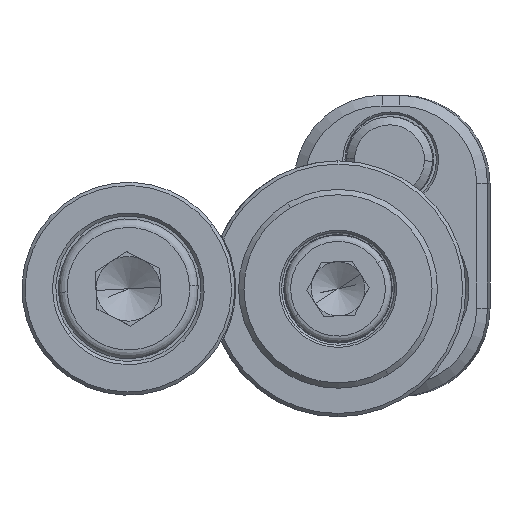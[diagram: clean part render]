
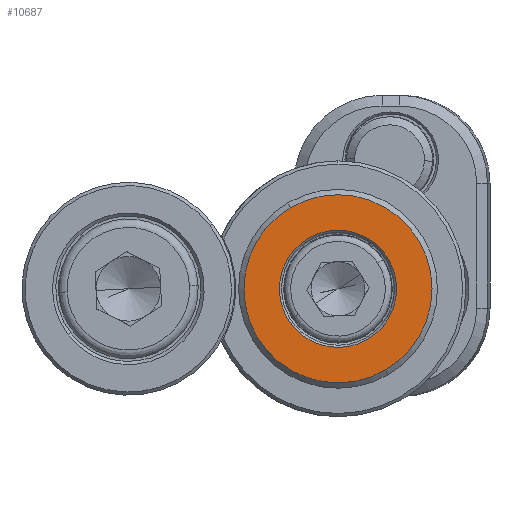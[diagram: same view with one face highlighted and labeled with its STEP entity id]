
A CAD part, front view. The second image highlights one B-rep face of the part: STEP entity #10687.
In plain terms, the highlighted planar face has unit normal (0, -1, 0).
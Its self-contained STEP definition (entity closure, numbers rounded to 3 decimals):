
#1014 = DIRECTION ( 'NONE',  ( 0., -1., 0. ) ) ;
#1101 = VERTEX_POINT ( 'NONE', #1203 ) ;
#1203 = CARTESIAN_POINT ( 'NONE',  ( 4.42, -4., -7.552 ) ) ;
#1492 = CIRCLE ( 'NONE', #1742, 5.45 ) ;
#1742 = AXIS2_PLACEMENT_3D ( 'NONE', #12019, #9812, #11785 ) ;
#2333 = EDGE_CURVE ( 'NONE', #2946, #5496, #1492, .T. ) ;
#2921 = EDGE_LOOP ( 'NONE', ( #8896, #9578 ) ) ;
#2946 = VERTEX_POINT ( 'NONE', #4589 ) ;
#3191 = DIRECTION ( 'NONE',  ( -0.505, 0., 0.863 ) ) ;
#3400 = DIRECTION ( 'NONE',  ( 0., -1., 0. ) ) ;
#3936 = FACE_BOUND ( 'NONE', #7759, .T. ) ;
#4589 = CARTESIAN_POINT ( 'NONE',  ( -2.753, -4., 4.704 ) ) ;
#5496 = VERTEX_POINT ( 'NONE', #8049 ) ;
#5726 = CARTESIAN_POINT ( 'NONE',  ( 0., -4., 0. ) ) ;
#6249 = CIRCLE ( 'NONE', #13011, 8.75 ) ;
#6579 = CARTESIAN_POINT ( 'NONE',  ( -4.42, -4., 7.552 ) ) ;
#6794 = ORIENTED_EDGE ( 'NONE', *, *, #10517, .T. ) ;
#7205 = AXIS2_PLACEMENT_3D ( 'NONE', #12151, #7545, #3191 ) ;
#7334 = AXIS2_PLACEMENT_3D ( 'NONE', #9217, #3400, #13670 ) ;
#7545 = DIRECTION ( 'NONE',  ( 0., 1., 0. ) ) ;
#7759 = EDGE_LOOP ( 'NONE', ( #6794, #8768 ) ) ;
#8049 = CARTESIAN_POINT ( 'NONE',  ( 2.753, -4., -4.704 ) ) ;
#8768 = ORIENTED_EDGE ( 'NONE', *, *, #2333, .T. ) ;
#8896 = ORIENTED_EDGE ( 'NONE', *, *, #14080, .T. ) ;
#9217 = CARTESIAN_POINT ( 'NONE',  ( 0., -4., 0. ) ) ;
#9578 = ORIENTED_EDGE ( 'NONE', *, *, #12111, .T. ) ;
#9812 = DIRECTION ( 'NONE',  ( 0., 1., 0. ) ) ;
#10457 = FACE_OUTER_BOUND ( 'NONE', #2921, .T. ) ;
#10517 = EDGE_CURVE ( 'NONE', #5496, #2946, #11618, .T. ) ;
#10593 = CARTESIAN_POINT ( 'NONE',  ( 0., -4., 0. ) ) ;
#10687 = ADVANCED_FACE ( 'NONE', ( #3936, #10457 ), #13969, .F. ) ;
#11162 = VERTEX_POINT ( 'NONE', #6579 ) ;
#11330 = DIRECTION ( 'NONE',  ( 0., 1., 0. ) ) ;
#11618 = CIRCLE ( 'NONE', #13513, 5.45 ) ;
#11785 = DIRECTION ( 'NONE',  ( -0.505, 0., 0.863 ) ) ;
#12019 = CARTESIAN_POINT ( 'NONE',  ( 0., -4., 0. ) ) ;
#12111 = EDGE_CURVE ( 'NONE', #1101, #11162, #12697, .T. ) ;
#12151 = CARTESIAN_POINT ( 'NONE',  ( -4.531, -4., -2.652 ) ) ;
#12243 = DIRECTION ( 'NONE',  ( -0.505, 0., 0.863 ) ) ;
#12697 = CIRCLE ( 'NONE', #7334, 8.75 ) ;
#12777 = DIRECTION ( 'NONE',  ( -0.505, 0., 0.863 ) ) ;
#13011 = AXIS2_PLACEMENT_3D ( 'NONE', #10593, #1014, #12777 ) ;
#13513 = AXIS2_PLACEMENT_3D ( 'NONE', #5726, #11330, #12243 ) ;
#13670 = DIRECTION ( 'NONE',  ( -0.505, 0., 0.863 ) ) ;
#13969 = PLANE ( 'NONE',  #7205 ) ;
#14080 = EDGE_CURVE ( 'NONE', #11162, #1101, #6249, .T. ) ;
